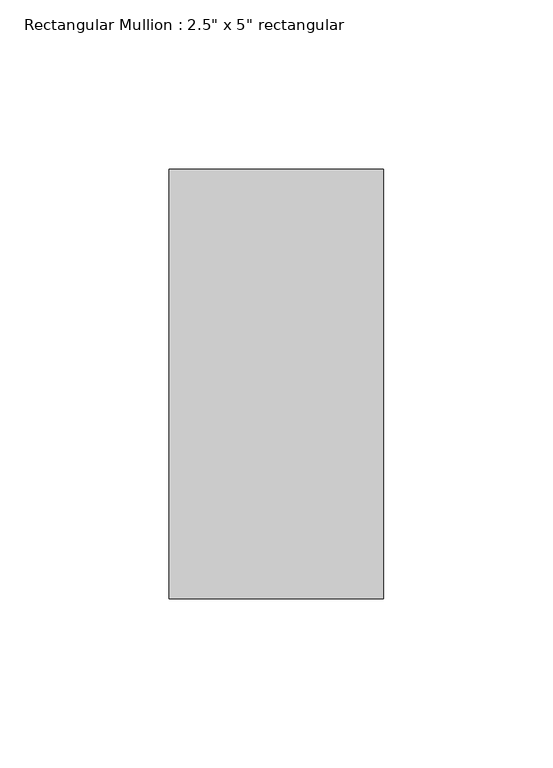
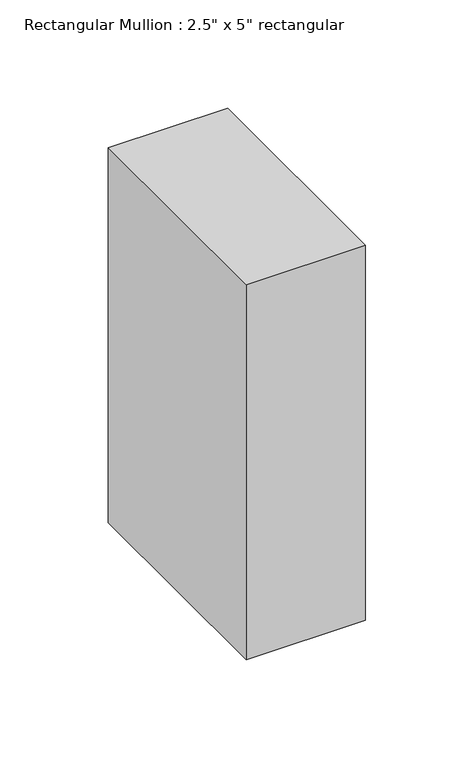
"""IFC4 building model written with IfcOpenShell, lengths in millimetres: member geometry."""

from ifc_helpers import new_model, si_unit, frame, origin, place, context, project, spatial, polyline, outline, extrude, source, transform, mapped, element, save


def member_38b8e9cb(model_context):
    return source(origin(), model_context, "Body", "SweptSolid", [
        extrude(outline(polyline([(31.75, 63.5), (31.75, -63.5), (-31.75, -63.5), (-31.75, 63.5), (31.75, 63.5)])), frame((0.0, 0.0, -210.9151287), z_axis=(0.0, 0.0, 1.0), x_axis=(1.0, 0.0, 0.0)), (0.0, 0.0, 1.0), 210.9151287),
    ])


if __name__ == "__main__":
    model = new_model("IFC4")
    model_context = context("Model", 3, world=origin())
    ifc_project = project(units=[si_unit("LENGTHUNIT", "METRE", prefix="MILLI")], contexts=[model_context])
    site = spatial("IfcSite", under=ifc_project)
    building = spatial("IfcBuilding", under=site)
    placement = place(None, origin())
    member_shape = member_38b8e9cb(model_context)
    element("IfcMember", 1, ObjectType="Rectangular Mullion : 2.5\" x 5\" rectangular", at=placement, inside=building, context=model_context, shape_type="MappedRepresentation", body=[
        mapped(member_shape, transform((0.0, 0.0, 0.0), x_axis=(1.0, 0.0, 0.0), y_axis=(0.0, 1.0, 0.0), z_axis=(0.0, 0.0, 1.0))),
    ])
    save(model, "model.ifc")
